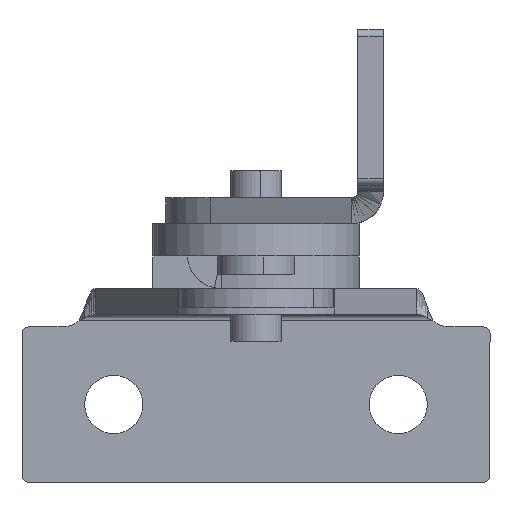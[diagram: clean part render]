
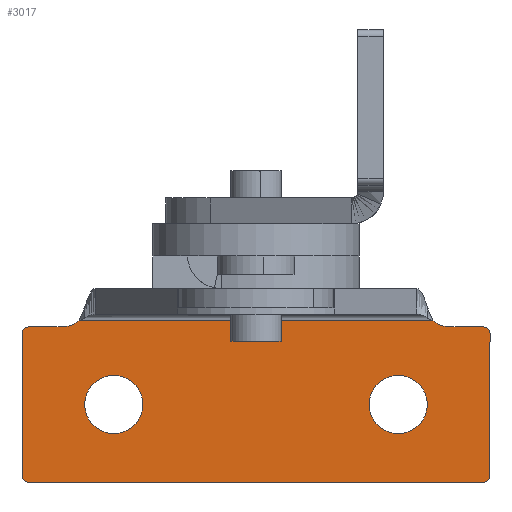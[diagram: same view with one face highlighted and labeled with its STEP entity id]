
A CAD part, left-side view. The second image highlights one B-rep face of the part: STEP entity #3017.
In plain terms, the highlighted planar face has unit normal (-1, 0, 0) as drawn and (0, 0, 1) by its records, which use the part's own axes.
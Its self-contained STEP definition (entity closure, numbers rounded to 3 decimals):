
#34 = ORIENTED_EDGE ( 'NONE', *, *, #346, .T. ) ;
#41 = ORIENTED_EDGE ( 'NONE', *, *, #1648, .T. ) ;
#52 = DIRECTION ( 'NONE',  ( 0., 0., 1. ) ) ;
#65 = AXIS2_PLACEMENT_3D ( 'NONE', #2488, #2496, #2505 ) ;
#79 = CARTESIAN_POINT ( 'NONE',  ( -17.6, 0.5, 0. ) ) ;
#90 = DIRECTION ( 'NONE',  ( 1., 0., 0. ) ) ;
#124 = ORIENTED_EDGE ( 'NONE', *, *, #942, .T. ) ;
#138 = CIRCLE ( 'NONE', #2937, 0.5 ) ;
#153 = CARTESIAN_POINT ( 'NONE',  ( -17.6, 11.5, 0. ) ) ;
#164 = DIRECTION ( 'NONE',  ( 0., 0., 1. ) ) ;
#168 = DIRECTION ( 'NONE',  ( 1., 0., 0. ) ) ;
#206 = VERTEX_POINT ( 'NONE', #405 ) ;
#221 = CARTESIAN_POINT ( 'NONE',  ( 8.75, 6., 0. ) ) ;
#225 = EDGE_CURVE ( 'NONE', #1105, #2340, #2634, .T. ) ;
#252 = CARTESIAN_POINT ( 'NONE',  ( -13.25, 6., 0. ) ) ;
#269 = VECTOR ( 'NONE', #1118, 1000. ) ;
#275 = DIRECTION ( 'NONE',  ( 1., 0., 0. ) ) ;
#286 = EDGE_CURVE ( 'NONE', #206, #1266, #3082, .T. ) ;
#287 = DIRECTION ( 'NONE',  ( 0., 0., 1. ) ) ;
#290 = CARTESIAN_POINT ( 'NONE',  ( 11., 6., 0. ) ) ;
#307 = CARTESIAN_POINT ( 'NONE',  ( -15., 12., 0. ) ) ;
#346 = EDGE_CURVE ( 'NONE', #2340, #1654, #1835, .T. ) ;
#366 = ORIENTED_EDGE ( 'NONE', *, *, #2190, .F. ) ;
#405 = CARTESIAN_POINT ( 'NONE',  ( -13.69, 12.489, 0. ) ) ;
#423 = CARTESIAN_POINT ( 'NONE',  ( 13.25, 6., 0. ) ) ;
#430 = LINE ( 'NONE', #1720, #2888 ) ;
#535 = CIRCLE ( 'NONE', #2793, 2. ) ;
#566 = VERTEX_POINT ( 'NONE', #1884 ) ;
#588 = AXIS2_PLACEMENT_3D ( 'NONE', #153, #164, #168 ) ;
#592 = VERTEX_POINT ( 'NONE', #1812 ) ;
#615 = CARTESIAN_POINT ( 'NONE',  ( -18.1, 0.5, 0. ) ) ;
#642 = FACE_BOUND ( 'NONE', #1361, .T. ) ;
#653 = EDGE_CURVE ( 'NONE', #2734, #1501, #430, .T. ) ;
#705 = AXIS2_PLACEMENT_3D ( 'NONE', #1023, #1026, #1031 ) ;
#783 = CARTESIAN_POINT ( 'NONE',  ( 11., 6., 0. ) ) ;
#785 = ORIENTED_EDGE ( 'NONE', *, *, #653, .T. ) ;
#788 = DIRECTION ( 'NONE',  ( 0., 0., 1. ) ) ;
#799 = DIRECTION ( 'NONE',  ( 1., 0., 0. ) ) ;
#820 = CARTESIAN_POINT ( 'NONE',  ( 18.1, 0., 0. ) ) ;
#855 = DIRECTION ( 'NONE',  ( 0., 1., 0. ) ) ;
#863 = CARTESIAN_POINT ( 'NONE',  ( -8.75, 6., 0. ) ) ;
#865 = DIRECTION ( 'NONE',  ( 1., 0., 0. ) ) ;
#875 = DIRECTION ( 'NONE',  ( 0., 0., 1. ) ) ;
#883 = CARTESIAN_POINT ( 'NONE',  ( -11., 6., 0. ) ) ;
#918 = LINE ( 'NONE', #2527, #269 ) ;
#942 = EDGE_CURVE ( 'NONE', #1501, #592, #535, .T. ) ;
#949 = ORIENTED_EDGE ( 'NONE', *, *, #1982, .F. ) ;
#985 = EDGE_CURVE ( 'NONE', #2009, #2851, #2988, .T. ) ;
#999 = DIRECTION ( 'NONE',  ( 1., 0., 0. ) ) ;
#1010 = DIRECTION ( 'NONE',  ( 0., 0., -1. ) ) ;
#1019 = CARTESIAN_POINT ( 'NONE',  ( 15., 14., 0. ) ) ;
#1023 = CARTESIAN_POINT ( 'NONE',  ( 17.6, 0.5, 0. ) ) ;
#1026 = DIRECTION ( 'NONE',  ( 0., 0., 1. ) ) ;
#1031 = DIRECTION ( 'NONE',  ( 1., 0., 0. ) ) ;
#1044 = EDGE_CURVE ( 'NONE', #566, #2363, #1280, .T. ) ;
#1105 = VERTEX_POINT ( 'NONE', #615 ) ;
#1118 = DIRECTION ( 'NONE',  ( 0., -1., 0. ) ) ;
#1162 = AXIS2_PLACEMENT_3D ( 'NONE', #290, #287, #275 ) ;
#1205 = VECTOR ( 'NONE', #2327, 1000. ) ;
#1226 = ORIENTED_EDGE ( 'NONE', *, *, #1565, .T. ) ;
#1233 = FACE_OUTER_BOUND ( 'NONE', #2895, .T. ) ;
#1256 = EDGE_CURVE ( 'NONE', #1894, #1846, #2594, .T. ) ;
#1266 = VERTEX_POINT ( 'NONE', #307 ) ;
#1280 = LINE ( 'NONE', #820, #1605 ) ;
#1361 = EDGE_LOOP ( 'NONE', ( #2841, #949 ) ) ;
#1501 = VERTEX_POINT ( 'NONE', #2153 ) ;
#1520 = ORIENTED_EDGE ( 'NONE', *, *, #1044, .T. ) ;
#1532 = CIRCLE ( 'NONE', #65, 2.25 ) ;
#1565 = EDGE_CURVE ( 'NONE', #1266, #3057, #1823, .T. ) ;
#1605 = VECTOR ( 'NONE', #855, 1000. ) ;
#1636 = AXIS2_PLACEMENT_3D ( 'NONE', #2432, #2486, #2495 ) ;
#1648 = EDGE_CURVE ( 'NONE', #592, #206, #2407, .T. ) ;
#1654 = VERTEX_POINT ( 'NONE', #2458 ) ;
#1664 = ORIENTED_EDGE ( 'NONE', *, *, #985, .F. ) ;
#1669 = CARTESIAN_POINT ( 'NONE',  ( 15., 12.489, 0. ) ) ;
#1693 = DIRECTION ( 'NONE',  ( -1., 0., 0. ) ) ;
#1697 = ORIENTED_EDGE ( 'NONE', *, *, #225, .T. ) ;
#1720 = CARTESIAN_POINT ( 'NONE',  ( 18.1, 12., 0. ) ) ;
#1749 = EDGE_CURVE ( 'NONE', #3057, #2166, #2257, .T. ) ;
#1812 = CARTESIAN_POINT ( 'NONE',  ( 13.69, 12.489, 0. ) ) ;
#1823 = LINE ( 'NONE', #2296, #1205 ) ;
#1835 = LINE ( 'NONE', #2516, #2999 ) ;
#1846 = VERTEX_POINT ( 'NONE', #221 ) ;
#1865 = CIRCLE ( 'NONE', #2834, 2.25 ) ;
#1884 = CARTESIAN_POINT ( 'NONE',  ( 18.1, 0.5, 0. ) ) ;
#1894 = VERTEX_POINT ( 'NONE', #423 ) ;
#1982 = EDGE_CURVE ( 'NONE', #1846, #1894, #1865, .T. ) ;
#2009 = VERTEX_POINT ( 'NONE', #863 ) ;
#2020 = EDGE_CURVE ( 'NONE', #1654, #566, #2880, .T. ) ;
#2076 = CARTESIAN_POINT ( 'NONE',  ( 17.6, 11.5, 0. ) ) ;
#2083 = ORIENTED_EDGE ( 'NONE', *, *, #2989, .T. ) ;
#2090 = DIRECTION ( 'NONE',  ( 0., 0., 1. ) ) ;
#2102 = DIRECTION ( 'NONE',  ( 1., 0., 0. ) ) ;
#2153 = CARTESIAN_POINT ( 'NONE',  ( 15., 12., 0. ) ) ;
#2166 = VERTEX_POINT ( 'NONE', #2228 ) ;
#2190 = EDGE_CURVE ( 'NONE', #2851, #2009, #1532, .T. ) ;
#2228 = CARTESIAN_POINT ( 'NONE',  ( -18.1, 11.5, 0. ) ) ;
#2257 = CIRCLE ( 'NONE', #588, 0.5 ) ;
#2267 = CARTESIAN_POINT ( 'NONE',  ( 17.6, 12., 0. ) ) ;
#2296 = CARTESIAN_POINT ( 'NONE',  ( -15., 12., 0. ) ) ;
#2313 = PLANE ( 'NONE',  #1636 ) ;
#2327 = DIRECTION ( 'NONE',  ( -1., 0., 0. ) ) ;
#2340 = VERTEX_POINT ( 'NONE', #3046 ) ;
#2348 = ORIENTED_EDGE ( 'NONE', *, *, #2766, .T. ) ;
#2363 = VERTEX_POINT ( 'NONE', #3116 ) ;
#2407 = LINE ( 'NONE', #1669, #2911 ) ;
#2422 = ORIENTED_EDGE ( 'NONE', *, *, #2020, .T. ) ;
#2432 = CARTESIAN_POINT ( 'NONE',  ( 15., 14., 0. ) ) ;
#2458 = CARTESIAN_POINT ( 'NONE',  ( 17.6, 0., 0. ) ) ;
#2470 = DIRECTION ( 'NONE',  ( 1., 0., 0. ) ) ;
#2486 = DIRECTION ( 'NONE',  ( 0., 0., 1. ) ) ;
#2488 = CARTESIAN_POINT ( 'NONE',  ( -11., 6., 0. ) ) ;
#2495 = DIRECTION ( 'NONE',  ( 1., 0., 0. ) ) ;
#2496 = DIRECTION ( 'NONE',  ( 0., 0., 1. ) ) ;
#2497 = DIRECTION ( 'NONE',  ( 1., 0., 0. ) ) ;
#2501 = DIRECTION ( 'NONE',  ( 0., 0., -1. ) ) ;
#2505 = DIRECTION ( 'NONE',  ( 1., 0., 0. ) ) ;
#2509 = CARTESIAN_POINT ( 'NONE',  ( -15., 14., 0. ) ) ;
#2516 = CARTESIAN_POINT ( 'NONE',  ( -18.1, 0., 0. ) ) ;
#2527 = CARTESIAN_POINT ( 'NONE',  ( -18.1, 12., 0. ) ) ;
#2574 = AXIS2_PLACEMENT_3D ( 'NONE', #79, #52, #90 ) ;
#2580 = ORIENTED_EDGE ( 'NONE', *, *, #286, .T. ) ;
#2594 = CIRCLE ( 'NONE', #1162, 2.25 ) ;
#2606 = DIRECTION ( 'NONE',  ( -1., 0., 0. ) ) ;
#2634 = CIRCLE ( 'NONE', #2574, 0.5 ) ;
#2721 = CARTESIAN_POINT ( 'NONE',  ( -17.6, 12., 0. ) ) ;
#2734 = VERTEX_POINT ( 'NONE', #2267 ) ;
#2766 = EDGE_CURVE ( 'NONE', #2166, #1105, #918, .T. ) ;
#2793 = AXIS2_PLACEMENT_3D ( 'NONE', #1019, #1010, #999 ) ;
#2806 = EDGE_LOOP ( 'NONE', ( #1664, #366 ) ) ;
#2834 = AXIS2_PLACEMENT_3D ( 'NONE', #783, #788, #799 ) ;
#2841 = ORIENTED_EDGE ( 'NONE', *, *, #1256, .F. ) ;
#2851 = VERTEX_POINT ( 'NONE', #252 ) ;
#2854 = AXIS2_PLACEMENT_3D ( 'NONE', #2509, #2501, #2497 ) ;
#2880 = CIRCLE ( 'NONE', #705, 0.5 ) ;
#2888 = VECTOR ( 'NONE', #1693, 1000. ) ;
#2895 = EDGE_LOOP ( 'NONE', ( #1520, #2083, #785, #124, #41, #2580, #1226, #3009, #2348, #1697, #34, #2422 ) ) ;
#2911 = VECTOR ( 'NONE', #2606, 1000. ) ;
#2937 = AXIS2_PLACEMENT_3D ( 'NONE', #2076, #2090, #2102 ) ;
#2988 = CIRCLE ( 'NONE', #3105, 2.25 ) ;
#2989 = EDGE_CURVE ( 'NONE', #2363, #2734, #138, .T. ) ;
#2999 = VECTOR ( 'NONE', #2470, 1000. ) ;
#3009 = ORIENTED_EDGE ( 'NONE', *, *, #1749, .T. ) ;
#3017 = ADVANCED_FACE ( 'NONE', ( #3020, #642, #1233 ), #2313, .T. ) ;
#3020 = FACE_BOUND ( 'NONE', #2806, .T. ) ;
#3046 = CARTESIAN_POINT ( 'NONE',  ( -17.6, 0., 0. ) ) ;
#3057 = VERTEX_POINT ( 'NONE', #2721 ) ;
#3082 = CIRCLE ( 'NONE', #2854, 2. ) ;
#3105 = AXIS2_PLACEMENT_3D ( 'NONE', #883, #875, #865 ) ;
#3116 = CARTESIAN_POINT ( 'NONE',  ( 18.1, 11.5, 0. ) ) ;
